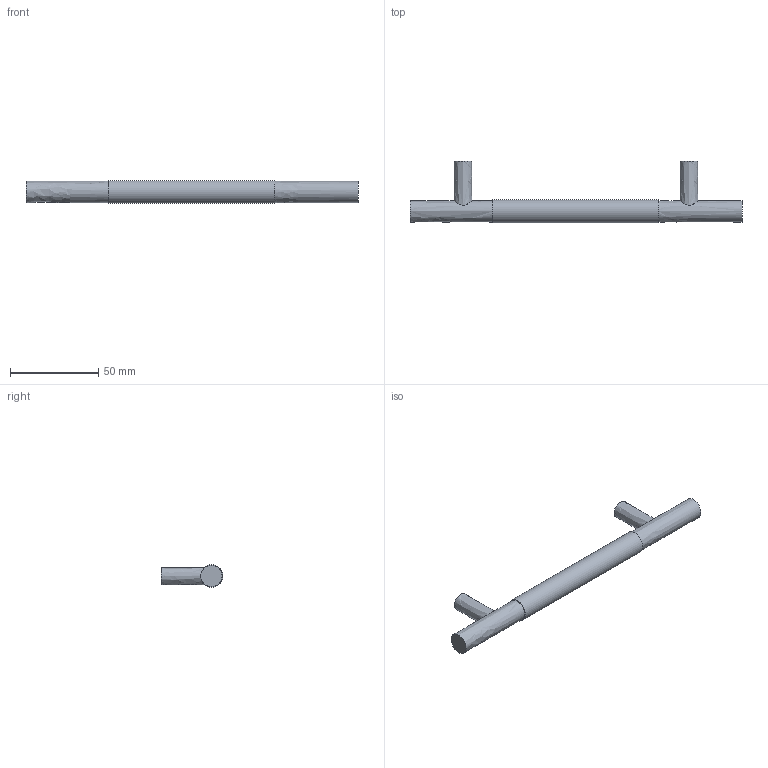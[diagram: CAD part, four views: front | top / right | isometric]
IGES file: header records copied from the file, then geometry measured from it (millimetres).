
Start section: Data from Parasolid IGES Translator 15.0.47, Copyright(c) 2006 Siemens P LM Software. All Rights Reserved.
Global section: file name: 9070146.igs; native system:  By UGS Corp.; preprocessor: XPlus GENERIC/IGES 3.0; author: Noname; organization: Noname; date: 20140122.104529; units: millimetre
Bounding box: 188 x 35 x 13 mm (x, y, z)
Surface area: 9346.6 mm2 (no closed solid volume)
Topology: 0 solids, 0 shells, 15 faces, 42 edges, 28 vertices
Faces by surface type: extrusion 8, revolution 7
